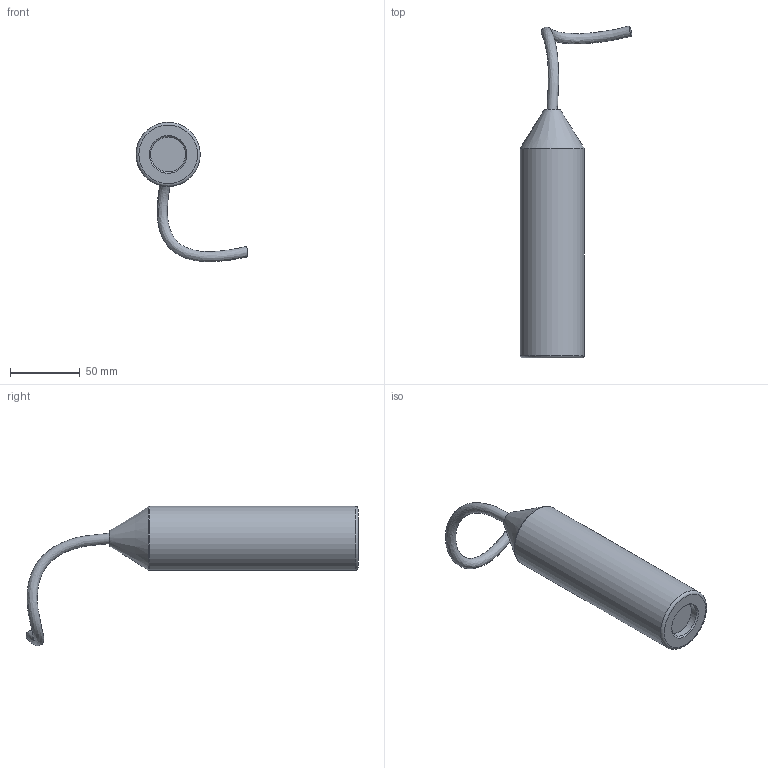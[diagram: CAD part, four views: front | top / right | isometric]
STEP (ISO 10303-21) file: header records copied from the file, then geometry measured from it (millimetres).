
FILE_DESCRIPTION(/* description */ (''),/* implementation_level */ '2;1');
FILE_NAME(/* name */ 'E:\IconProCon\FOLDERS FOR ONLINE UPLOADING\200C\200C STEP\200C.stp',/* time_stamp */ '2020-08-18T11:41:24-04:00',/* author */ ('Sohia'),/* organization */ (''),/* preprocessor_version */ 'ST-DEVELOPER v18.1',/* originating_system */ 'Autodesk Inventor 2020',/* authorisation */ '');
FILE_SCHEMA (('AUTOMOTIVE_DESIGN { 1 0 10303 214 3 1 1 }'));
Length unit declared in the file: millimetre
Products named in the file (1): 200C
Bounding box: 80.17 x 237.84 x 99.83 mm (x, y, z)
Volume: 273321.5 mm3; surface area: 30407.8 mm2
Topology: 1 solids, 1 shells, 12 faces, 31 edges, 23 vertices
Faces by surface type: plane 4, torus 3, cone 2, cylinder 2, bspline 1
Full cylindrical faces by diameter (mm): 25 x1, 46 x1
Entity records: 663 total; most frequent: CARTESIAN_POINT 279, DIRECTION 78, ORIENTED_EDGE 62, AXIS2_PLACEMENT_3D 37, EDGE_CURVE 31, CIRCLE 25, VERTEX_POINT 23, EDGE_LOOP 14
